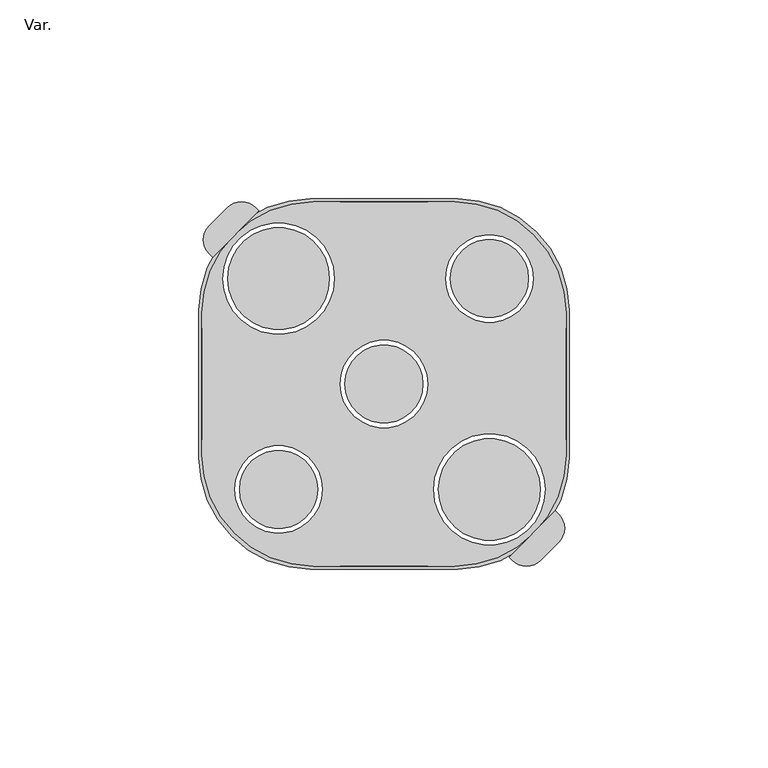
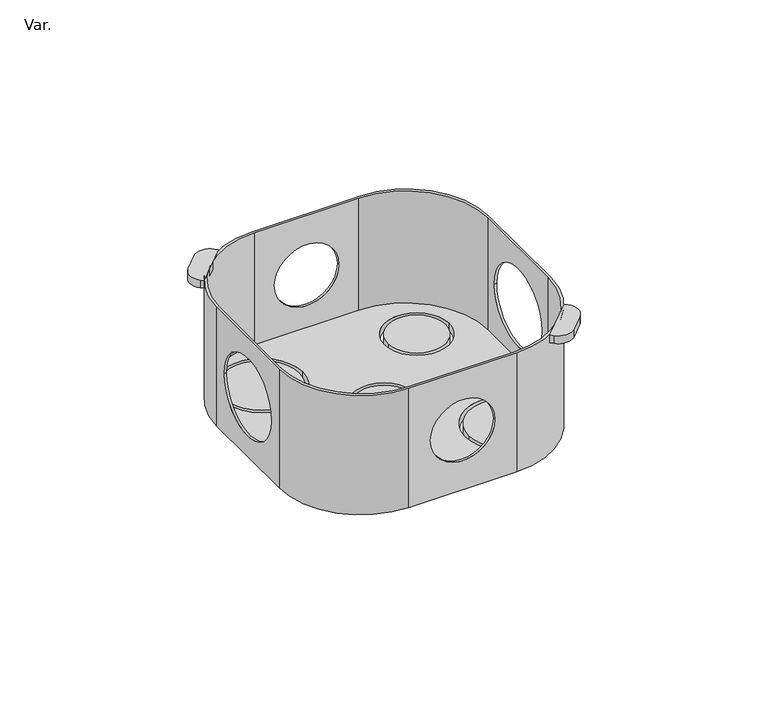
"""IFC4 building model written with IfcOpenShell, lengths in millimetres: cable carrier fitting geometry, PlastigamaWavin_Unionesdetubo_ConduitZNoUsarCajaOctogonal : Var.."""

from ifc_helpers import new_model, si_unit, point, frame, frame_2d, origin, place, context, project, spatial, polyline, circle_curve, trimmed, segment, composite_curve, outline, extrude, source, transform, mapped, element, save
from ifc_brep_helpers import plane_surface, cylinder_surface, revolved_surface, advanced_brep


def var_25dc7d8c(model_context):
    return source(origin(), model_context, "Body", "SolidModel", [
        extrude(outline(composite_curve([segment(trimmed(circle_curve(frame_2d((35.806231, -40.7917488)), 5.0), [point((39.3417649, -44.3272827))], [point((32.2706971, -44.3272827))], False, "CARTESIAN"), True, "CONTINUOUS"), segment(polyline([(32.2706971, -44.3272827), (31.4609084, -43.517494), (43.0936848, -31.8847176), (43.9034735, -32.6945063)]), True, "CONTINUOUS"), segment(trimmed(circle_curve(frame_2d((40.3679396, -36.2300402)), 5.0), [point((43.9034735, -32.6945063))], [point((43.9034735, -39.7655741))], False, "CARTESIAN"), True, "CONTINUOUS"), segment(polyline([(43.9034735, -39.7655741), (39.3417649, -44.3272827)]), True, "CONTINUOUS")], self_intersect=False)), frame((0.0, 0.0, 18.6577793), z_axis=(0.0, 0.0, 1.0), x_axis=(1.0, 0.0, 0.0)), (0.0, 0.0, 1.0), 2.8422207),
        extrude(outline(composite_curve([segment(trimmed(circle_curve(frame_2d((-35.806231, 40.7917488)), 5.0), [point((-39.3417649, 44.3272827))], [point((-32.2706971, 44.3272827))], False, "CARTESIAN"), True, "CONTINUOUS"), segment(polyline([(-32.2706971, 44.3272827), (-31.4609084, 43.517494), (-43.0936848, 31.8847176), (-43.9034735, 32.6945063)]), True, "CONTINUOUS"), segment(trimmed(circle_curve(frame_2d((-40.3679396, 36.2300402)), 5.0), [point((-43.9034735, 32.6945063))], [point((-43.9034735, 39.7655741))], False, "CARTESIAN"), True, "CONTINUOUS"), segment(polyline([(-43.9034735, 39.7655741), (-39.3417649, 44.3272827)]), True, "CONTINUOUS")], self_intersect=False)), frame((0.0, 0.0, 18.6577793), z_axis=(0.0, 0.0, 1.0), x_axis=(1.0, 0.0, 0.0)), (0.0, 0.0, 1.0), 2.8422207),
        advanced_brep(
        [(18.5, 46.5, 21.5), (-18.5, 46.5, 21.5), (-46.5, 18.5, 21.5), (-46.5, -18.5, 21.5), (-18.5, -46.5, 21.5), (18.5, -46.5, 21.5), (46.5, -18.5, 21.5), (46.5, 18.5, 21.5), (-17.75, -45.75, 21.5), (-45.75, -17.75, 21.5), (-45.75, 17.75, 21.5), (-17.75, 45.75, 21.5), (17.75, 45.75, 21.5), (45.75, 17.75, 21.5), (45.75, -17.75, 21.5), (17.75, -45.75, 21.5), (18.5, 46.5, -21.5), (46.5, 18.5, -21.5), (46.5, -18.5, -21.5), (18.5, -46.5, -21.5), (-18.5, -46.5, -21.5), (-46.5, -18.5, -21.5), (-46.5, 18.5, -21.5), (-18.5, 46.5, -21.5), (-40.5, 26.5, -21.5), (-12.5, 26.5, -21.5), (15.5, 26.5, -21.5), (37.5, 26.5, -21.5), (-11.0, 0.0, -21.5), (11.0, 0.0, -21.5), (12.5, -26.5, -21.5), (40.5, -26.5, -21.5), (-37.5, -26.5, -21.5), (-15.5, -26.5, -21.5), (-11.0, 46.5, 0.0), (11.0, 46.5, 0.0), (-46.5, -14.0, 0.0), (-46.5, 14.0, 0.0), (11.0, -46.5, 0.0), (-11.0, -46.5, 0.0), (46.5, 14.0, 0.0), (46.5, -14.0, 0.0), (-45.75, -17.75, -18.9014725), (-17.75, -45.75, -18.9014725), (17.75, -45.75, -18.9014725), (45.75, -17.75, -18.9014725), (45.75, 17.75, -18.9014725), (17.75, 45.75, -18.9014725), (-17.75, 45.75, -18.9014725), (-45.75, 17.75, -18.9014725), (-12.5, 26.5, -18.9014725), (-40.5, 26.5, -18.9014725), (37.5, 26.5, -18.9014725), (15.5, 26.5, -18.9014725), (11.0, 0.0, -18.9014725), (-11.0, 0.0, -18.9014725), (40.5, -26.5, -18.9014725), (12.5, -26.5, -18.9014725), (-15.5, -26.5, -18.9014725), (-37.5, -26.5, -18.9014725), (-11.0, -45.75, 0.0), (11.0, -45.75, 0.0), (45.75, -14.0, 0.0), (45.75, 14.0, 0.0), (11.0, 45.75, 0.0), (-11.0, 45.75, 0.0), (-45.75, 14.0, 0.0), (-45.75, -14.0, 0.0)],
        [
            (0, 1),
            (1, 2, circle_curve(frame((-18.5, 18.5, 21.5), z_axis=(0.0, 0.0, 1.0), x_axis=(1.0, 0.0, 0.0)), 28.0)),
            (2, 3),
            (3, 4, circle_curve(frame((-18.5, -18.5, 21.5), z_axis=(0.0, 0.0, 1.0), x_axis=(1.0, 0.0, 0.0)), 28.0)),
            (4, 5),
            (5, 6, circle_curve(frame((18.5, -18.5, 21.5), z_axis=(0.0, 0.0, 1.0), x_axis=(1.0, 0.0, 0.0)), 28.0)),
            (6, 7),
            (7, 0, circle_curve(frame((18.5, 18.5, 21.5), z_axis=(0.0, 0.0, 1.0), x_axis=(1.0, 0.0, 0.0)), 28.0)),
            (8, 9, circle_curve(frame((-17.75, -17.75, 21.5), z_axis=(0.0, 0.0, -1.0), x_axis=(1.0, 0.0, 0.0)), 28.0)),
            (9, 10),
            (10, 11, circle_curve(frame((-17.75, 17.75, 21.5), z_axis=(0.0, 0.0, -1.0), x_axis=(1.0, 0.0, 0.0)), 28.0)),
            (11, 12),
            (12, 13, circle_curve(frame((17.75, 17.75, 21.5), z_axis=(0.0, 0.0, -1.0), x_axis=(1.0, 0.0, 0.0)), 28.0)),
            (13, 14),
            (14, 15, circle_curve(frame((17.75, -17.75, 21.5), z_axis=(0.0, 0.0, -1.0), x_axis=(1.0, 0.0, 0.0)), 28.0)),
            (15, 8),
            (16, 17, circle_curve(frame((18.5, 18.5, -21.5), z_axis=(0.0, 0.0, -1.0), x_axis=(1.0, 0.0, 0.0)), 28.0)),
            (17, 18),
            (18, 19, circle_curve(frame((18.5, -18.5, -21.5), z_axis=(0.0, 0.0, -1.0), x_axis=(1.0, 0.0, 0.0)), 28.0)),
            (19, 20),
            (20, 21, circle_curve(frame((-18.5, -18.5, -21.5), z_axis=(0.0, 0.0, -1.0), x_axis=(1.0, 0.0, 0.0)), 28.0)),
            (21, 22),
            (22, 23, circle_curve(frame((-18.5, 18.5, -21.5), z_axis=(0.0, 0.0, -1.0), x_axis=(1.0, 0.0, 0.0)), 28.0)),
            (23, 16),
            (24, 25, circle_curve(frame((-26.5, 26.5, -21.5), z_axis=(0.0, 0.0, 1.0), x_axis=(1.0, 0.0, 0.0)), 14.0)),
            (25, 24, circle_curve(frame((-26.5, 26.5, -21.5), z_axis=(0.0, 0.0, 1.0), x_axis=(1.0, 0.0, 0.0)), 14.0)),
            (26, 27, circle_curve(frame((26.5, 26.5, -21.5), z_axis=(0.0, 0.0, 1.0), x_axis=(1.0, 0.0, 0.0)), 11.0)),
            (27, 26, circle_curve(frame((26.5, 26.5, -21.5), z_axis=(0.0, 0.0, 1.0), x_axis=(1.0, 0.0, 0.0)), 11.0)),
            (28, 29, circle_curve(frame((0.0, 0.0, -21.5), z_axis=(0.0, 0.0, 1.0), x_axis=(1.0, 0.0, 0.0)), 11.0)),
            (29, 28, circle_curve(frame((0.0, 0.0, -21.5), z_axis=(0.0, 0.0, 1.0), x_axis=(1.0, 0.0, 0.0)), 11.0)),
            (30, 31, circle_curve(frame((26.5, -26.5, -21.5), z_axis=(0.0, 0.0, 1.0), x_axis=(1.0, 0.0, 0.0)), 14.0)),
            (31, 30, circle_curve(frame((26.5, -26.5, -21.5), z_axis=(0.0, 0.0, 1.0), x_axis=(1.0, 0.0, 0.0)), 14.0)),
            (32, 33, circle_curve(frame((-26.5, -26.5, -21.5), z_axis=(0.0, 0.0, 1.0), x_axis=(1.0, 0.0, 0.0)), 11.0)),
            (33, 32, circle_curve(frame((-26.5, -26.5, -21.5), z_axis=(0.0, 0.0, 1.0), x_axis=(1.0, 0.0, 0.0)), 11.0)),
            (0, 16),
            (23, 1),
            (34, 35, circle_curve(frame((0.0, 46.5, 0.0), z_axis=(0.0, -1.0, 0.0), x_axis=(1.0, 0.0, 0.0)), 11.0)),
            (35, 34, circle_curve(frame((0.0, 46.5, 0.0), z_axis=(0.0, -1.0, 0.0), x_axis=(1.0, 0.0, 0.0)), 11.0)),
            (22, 2),
            (21, 3),
            (36, 37, circle_curve(frame((-46.5, 0.0, 0.0), z_axis=(1.0, 0.0, 0.0), x_axis=(0.0, 1.0, 0.0)), 14.0)),
            (37, 36, circle_curve(frame((-46.5, 0.0, 0.0), z_axis=(1.0, 0.0, 0.0), x_axis=(0.0, 1.0, 0.0)), 14.0)),
            (20, 4),
            (19, 5),
            (38, 39, circle_curve(frame((0.0, -46.5, 0.0), z_axis=(0.0, 1.0, 0.0), x_axis=(1.0, 0.0, 0.0)), 11.0)),
            (39, 38, circle_curve(frame((0.0, -46.5, 0.0), z_axis=(0.0, 1.0, 0.0), x_axis=(1.0, 0.0, 0.0)), 11.0)),
            (18, 6),
            (17, 7),
            (40, 41, circle_curve(frame((46.5, 0.0, 0.0), z_axis=(-1.0, 0.0, 0.0), x_axis=(0.0, 1.0, 0.0)), 14.0)),
            (41, 40, circle_curve(frame((46.5, 0.0, 0.0), z_axis=(-1.0, 0.0, 0.0), x_axis=(0.0, 1.0, 0.0)), 14.0)),
            (42, 43, circle_curve(frame((-17.75, -17.75, -18.9014725), z_axis=(0.0, 0.0, 1.0), x_axis=(1.0, 0.0, 0.0)), 28.0)),
            (43, 44),
            (44, 45, circle_curve(frame((17.75, -17.75, -18.9014725), z_axis=(0.0, 0.0, 1.0), x_axis=(1.0, 0.0, 0.0)), 28.0)),
            (45, 46),
            (46, 47, circle_curve(frame((17.75, 17.75, -18.9014725), z_axis=(0.0, 0.0, 1.0), x_axis=(1.0, 0.0, 0.0)), 28.0)),
            (47, 48),
            (48, 49, circle_curve(frame((-17.75, 17.75, -18.9014725), z_axis=(0.0, 0.0, 1.0), x_axis=(1.0, 0.0, 0.0)), 28.0)),
            (49, 42),
            (50, 51, circle_curve(frame((-26.5, 26.5, -18.9014725), z_axis=(0.0, 0.0, -1.0), x_axis=(1.0, 0.0, 0.0)), 14.0)),
            (51, 50, circle_curve(frame((-26.5, 26.5, -18.9014725), z_axis=(0.0, 0.0, -1.0), x_axis=(1.0, 0.0, 0.0)), 14.0)),
            (52, 53, circle_curve(frame((26.5, 26.5, -18.9014725), z_axis=(0.0, 0.0, -1.0), x_axis=(1.0, 0.0, 0.0)), 11.0)),
            (53, 52, circle_curve(frame((26.5, 26.5, -18.9014725), z_axis=(0.0, 0.0, -1.0), x_axis=(1.0, 0.0, 0.0)), 11.0)),
            (54, 55, circle_curve(frame((0.0, 0.0, -18.9014725), z_axis=(0.0, 0.0, -1.0), x_axis=(1.0, 0.0, 0.0)), 11.0)),
            (55, 54, circle_curve(frame((0.0, 0.0, -18.9014725), z_axis=(0.0, 0.0, -1.0), x_axis=(1.0, 0.0, 0.0)), 11.0)),
            (56, 57, circle_curve(frame((26.5, -26.5, -18.9014725), z_axis=(0.0, 0.0, -1.0), x_axis=(1.0, 0.0, 0.0)), 14.0)),
            (57, 56, circle_curve(frame((26.5, -26.5, -18.9014725), z_axis=(0.0, 0.0, -1.0), x_axis=(1.0, 0.0, 0.0)), 14.0)),
            (58, 59, circle_curve(frame((-26.5, -26.5, -18.9014725), z_axis=(0.0, 0.0, -1.0), x_axis=(1.0, 0.0, 0.0)), 11.0)),
            (59, 58, circle_curve(frame((-26.5, -26.5, -18.9014725), z_axis=(0.0, 0.0, -1.0), x_axis=(1.0, 0.0, 0.0)), 11.0)),
            (42, 9),
            (8, 43),
            (15, 44),
            (60, 61, circle_curve(frame((0.0, -45.75, 0.0), z_axis=(0.0, -1.0, 0.0), x_axis=(1.0, 0.0, 0.0)), 11.0)),
            (61, 60, circle_curve(frame((0.0, -45.75, 0.0), z_axis=(0.0, -1.0, 0.0), x_axis=(1.0, 0.0, 0.0)), 11.0)),
            (14, 45),
            (13, 46),
            (62, 63, circle_curve(frame((45.75, 0.0, 0.0), z_axis=(1.0, 0.0, 0.0), x_axis=(0.0, 1.0, 0.0)), 14.0)),
            (63, 62, circle_curve(frame((45.75, 0.0, 0.0), z_axis=(1.0, 0.0, 0.0), x_axis=(0.0, 1.0, 0.0)), 14.0)),
            (12, 47),
            (11, 48),
            (64, 65, circle_curve(frame((0.0, 45.75, 0.0), z_axis=(0.0, 1.0, 0.0), x_axis=(1.0, 0.0, 0.0)), 11.0)),
            (65, 64, circle_curve(frame((0.0, 45.75, 0.0), z_axis=(0.0, 1.0, 0.0), x_axis=(1.0, 0.0, 0.0)), 11.0)),
            (10, 49),
            (66, 67, circle_curve(frame((-45.75, 0.0, 0.0), z_axis=(-1.0, 0.0, 0.0), x_axis=(0.0, 1.0, 0.0)), 14.0)),
            (67, 66, circle_curve(frame((-45.75, 0.0, 0.0), z_axis=(-1.0, 0.0, 0.0), x_axis=(0.0, 1.0, 0.0)), 14.0)),
            (24, 51),
            (50, 25),
            (26, 53),
            (52, 27),
            (28, 55),
            (54, 29),
            (30, 57),
            (56, 31),
            (32, 59),
            (58, 33),
            (60, 39),
            (38, 61),
            (34, 65),
            (64, 35),
            (62, 41),
            (40, 63),
            (36, 67),
            (66, 37),
        ],
        [
            plane_surface(frame((-18.5, 46.5, 21.5), z_axis=(0.0, 0.0, 1.0), x_axis=(-1.0, 0.0, 0.0))),
            plane_surface(frame((-18.5, 46.5, -21.5), z_axis=(0.0, 0.0, -1.0), x_axis=(1.0, 0.0, 0.0))),
            plane_surface(frame((18.5, 46.5, 21.5), z_axis=(0.0, 1.0, 0.0), x_axis=(0.0, 0.0, -1.0))),
            cylinder_surface(frame((-18.5, 18.5, -21.5), z_axis=(0.0, 0.0, 1.0), x_axis=(1.0, 0.0, 0.0)), 28.0),
            plane_surface(frame((-46.5, 18.5, 21.5), z_axis=(-1.0, 0.0, 0.0), x_axis=(0.0, 0.0, -1.0))),
            cylinder_surface(frame((-18.5, -18.5, -21.5), z_axis=(0.0, 0.0, 1.0), x_axis=(1.0, 0.0, 0.0)), 28.0),
            plane_surface(frame((-18.5, -46.5, 21.5), z_axis=(0.0, -1.0, 0.0), x_axis=(0.0, 0.0, -1.0))),
            cylinder_surface(frame((18.5, -18.5, -21.5), z_axis=(0.0, 0.0, 1.0), x_axis=(1.0, 0.0, 0.0)), 28.0),
            plane_surface(frame((46.5, -18.5, 21.5), z_axis=(1.0, 0.0, 0.0), x_axis=(0.0, 0.0, -1.0))),
            cylinder_surface(frame((18.5, 18.5, -21.5), z_axis=(0.0, 0.0, 1.0), x_axis=(1.0, 0.0, 0.0)), 28.0),
            plane_surface(frame((10.25, -17.75, -18.9014725), z_axis=(0.0, 0.0, 1.0), x_axis=(0.0, -1.0, 0.0))),
            revolved_surface(polyline([(10.25, -17.75, 21.499999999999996), (10.25, -17.75, -18.9014725)]), (-17.75, -17.75, -18.9014725), (0.0, 0.0, 1.0)),
            plane_surface(frame((-17.75, -45.75, 21.5), z_axis=(0.0, 1.0, 0.0), x_axis=(0.0, 0.0, -1.0))),
            revolved_surface(polyline([(45.75, -17.75, 21.499999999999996), (45.75, -17.75, -18.9014725)]), (17.75, -17.75, -18.9014725), (0.0, 0.0, 1.0)),
            plane_surface(frame((45.75, -17.75, 21.5), z_axis=(-1.0, 0.0, 0.0), x_axis=(0.0, 0.0, -1.0))),
            revolved_surface(polyline([(45.75, 17.75, 21.499999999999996), (45.75, 17.75, -18.9014725)]), (17.75, 17.75, -18.9014725), (0.0, 0.0, 1.0)),
            plane_surface(frame((17.75, 45.75, 21.5), z_axis=(0.0, -1.0, 0.0), x_axis=(0.0, 0.0, -1.0))),
            revolved_surface(polyline([(10.25, 17.75, 21.499999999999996), (10.25, 17.75, -18.9014725)]), (-17.75, 17.75, -18.9014725), (0.0, 0.0, 1.0)),
            plane_surface(frame((-45.75, 17.75, 21.5), z_axis=(1.0, 0.0, 0.0), x_axis=(0.0, 0.0, -1.0))),
            revolved_surface(polyline([(-12.5, 26.5, -18.9014725), (-12.5, 26.5, -21.5)]), (-26.5, 26.5, 0.0), (0.0, 0.0, 1.0)),
            revolved_surface(polyline([(37.5, 26.5, -18.9014725), (37.5, 26.5, -21.5)]), (26.5, 26.5, 0.0), (0.0, 0.0, 1.0)),
            revolved_surface(polyline([(11.0, 0.0, -18.9014725), (11.0, 0.0, -21.5)]), (0.0, 0.0, 0.0), (0.0, 0.0, 1.0)),
            revolved_surface(polyline([(40.5, -26.5, -18.9014725), (40.5, -26.5, -21.5)]), (26.5, -26.5, 0.0), (0.0, 0.0, 1.0)),
            revolved_surface(polyline([(-15.5, -26.5, -18.9014725), (-15.5, -26.5, -21.5)]), (-26.5, -26.5, 0.0), (0.0, 0.0, 1.0)),
            revolved_surface(polyline([(11.0, -46.5, 0.0), (11.0, -45.75, 0.0)]), (0.0, 46.5, 0.0), (0.0, -1.0, 0.0)),
            revolved_surface(polyline([(11.0, 45.75, 0.0), (11.0, 46.5, 0.0)]), (0.0, 46.5, 0.0), (0.0, -1.0, 0.0)),
            revolved_surface(polyline([(46.5, 14.0, 0.0), (45.75, 14.0, 0.0)]), (-46.5, 0.0, 0.0), (1.0, 0.0, 0.0)),
            revolved_surface(polyline([(-45.75, 14.0, 0.0), (-46.5, 14.0, 0.0)]), (-46.5, 0.0, 0.0), (1.0, 0.0, 0.0)),
        ],
        [
            (0, [[1, 2, 3, 4, 5, 6, 7, 8], [9, 10, 11, 12, 13, 14, 15, 16]]),
            (1, [[17, 18, 19, 20, 21, 22, 23, 24], [25, 26], [27, 28], [29, 30], [31, 32], [33, 34]]),
            (2, [[-1, 35, -24, 36], [37, 38]]),
            (3, [[-2, -36, -23, 39]]),
            (4, [[-3, -39, -22, 40], [41, 42]]),
            (5, [[-4, -40, -21, 43]]),
            (6, [[-5, -43, -20, 44], [45, 46]]),
            (7, [[-6, -44, -19, 47]]),
            (8, [[-7, -47, -18, 48], [49, 50]]),
            (9, [[-8, -48, -17, -35]]),
            (10, [[51, 52, 53, 54, 55, 56, 57, 58], [59, 60], [61, 62], [63, 64], [65, 66], [67, 68]]),
            (11, [[-51, 69, -9, 70]]),
            (12, [[-52, -70, -16, 71], [72, 73]]),
            (13, [[-53, -71, -15, 74]]),
            (14, [[-54, -74, -14, 75], [76, 77]]),
            (15, [[-55, -75, -13, 78]]),
            (16, [[-56, -78, -12, 79], [80, 81]]),
            (17, [[-57, -79, -11, 82]]),
            (18, [[-58, -82, -10, -69], [83, 84]]),
            (19, [[85, -59, 86, -25]]),
            (19, [[-85, -26, -86, -60]]),
            (20, [[87, -61, 88, -27]]),
            (20, [[-87, -28, -88, -62]]),
            (21, [[89, -63, 90, -29]]),
            (21, [[-89, -30, -90, -64]]),
            (22, [[91, -65, 92, -31]]),
            (22, [[-91, -32, -92, -66]]),
            (23, [[93, -67, 94, -33]]),
            (23, [[-93, -34, -94, -68]]),
            (24, [[95, -45, 96, -72]]),
            (25, [[97, -80, 98, -37]]),
            (24, [[-95, -73, -96, -46]]),
            (25, [[-97, -38, -98, -81]]),
            (26, [[99, -49, 100, -76]]),
            (27, [[101, -83, 102, -41]]),
            (26, [[-99, -77, -100, -50]]),
            (27, [[-101, -42, -102, -84]]),
        ],
    ),
        advanced_brep(
        [(-39.3, 26.5, -21.5), (-13.7, 26.5, -21.5), (-13.7, 26.5, -18.9014725), (-39.3, 26.5, -18.9014725)],
        [
            (0, 1, circle_curve(frame((-26.5, 26.5, -21.5), z_axis=(0.0, 0.0, -1.0), x_axis=(1.0, 0.0, 0.0)), 12.8)),
            (1, 0, circle_curve(frame((-26.5, 26.5, -21.5), z_axis=(0.0, 0.0, -1.0), x_axis=(1.0, 0.0, 0.0)), 12.8)),
            (2, 3, circle_curve(frame((-26.5, 26.5, -18.9014725), z_axis=(0.0, 0.0, 1.0), x_axis=(1.0, 0.0, 0.0)), 12.8)),
            (3, 2, circle_curve(frame((-26.5, 26.5, -18.9014725), z_axis=(0.0, 0.0, 1.0), x_axis=(1.0, 0.0, 0.0)), 12.8)),
            (0, 3),
            (2, 1),
        ],
        [
            plane_surface(frame((-18.5, 46.5, -21.5), z_axis=(0.0, 0.0, -1.0), x_axis=(1.0, 0.0, 0.0))),
            plane_surface(frame((10.25, -17.75, -18.9014725), z_axis=(0.0, 0.0, 1.0), x_axis=(0.0, -1.0, 0.0))),
            cylinder_surface(frame((-26.5, 26.5, -82.1571203), z_axis=(0.0, 0.0, -1.0), x_axis=(1.0, 0.0, 0.0)), 12.8),
        ],
        [
            (0, [[1, 2]]),
            (1, [[3, 4]]),
            (2, [[5, -3, 6, -1]]),
            (2, [[-5, -2, -6, -4]]),
        ],
    ),
        advanced_brep(
        [(16.7, 26.5, -21.5), (36.3, 26.5, -21.5), (36.3, 26.5, -18.9014725), (16.7, 26.5, -18.9014725)],
        [
            (0, 1, circle_curve(frame((26.5, 26.5, -21.5), z_axis=(0.0, 0.0, -1.0), x_axis=(1.0, 0.0, 0.0)), 9.8)),
            (1, 0, circle_curve(frame((26.5, 26.5, -21.5), z_axis=(0.0, 0.0, -1.0), x_axis=(1.0, 0.0, 0.0)), 9.8)),
            (2, 3, circle_curve(frame((26.5, 26.5, -18.9014725), z_axis=(0.0, 0.0, 1.0), x_axis=(1.0, 0.0, 0.0)), 9.8)),
            (3, 2, circle_curve(frame((26.5, 26.5, -18.9014725), z_axis=(0.0, 0.0, 1.0), x_axis=(1.0, 0.0, 0.0)), 9.8)),
            (0, 3),
            (2, 1),
        ],
        [
            plane_surface(frame((-18.5, 46.5, -21.5), z_axis=(0.0, 0.0, -1.0), x_axis=(1.0, 0.0, 0.0))),
            plane_surface(frame((10.25, -17.75, -18.9014725), z_axis=(0.0, 0.0, 1.0), x_axis=(0.0, -1.0, 0.0))),
            cylinder_surface(frame((26.5, 26.5, 0.0), z_axis=(0.0, 0.0, -1.0), x_axis=(1.0, 0.0, 0.0)), 9.8),
        ],
        [
            (0, [[1, 2]]),
            (1, [[3, 4]]),
            (2, [[5, -3, 6, -1]]),
            (2, [[-5, -2, -6, -4]]),
        ],
    ),
        advanced_brep(
        [(-9.8, 0.0, -21.5), (9.8, 0.0, -21.5), (9.8, 0.0, -18.9014725), (-9.8, 0.0, -18.9014725)],
        [
            (0, 1, circle_curve(frame((0.0, 0.0, -21.5), z_axis=(0.0, 0.0, -1.0), x_axis=(1.0, 0.0, 0.0)), 9.8)),
            (1, 0, circle_curve(frame((0.0, 0.0, -21.5), z_axis=(0.0, 0.0, -1.0), x_axis=(1.0, 0.0, 0.0)), 9.8)),
            (2, 3, circle_curve(frame((0.0, 0.0, -18.9014725), z_axis=(0.0, 0.0, 1.0), x_axis=(1.0, 0.0, 0.0)), 9.8)),
            (3, 2, circle_curve(frame((0.0, 0.0, -18.9014725), z_axis=(0.0, 0.0, 1.0), x_axis=(1.0, 0.0, 0.0)), 9.8)),
            (0, 3),
            (2, 1),
        ],
        [
            plane_surface(frame((-18.5, 46.5, -21.5), z_axis=(0.0, 0.0, -1.0), x_axis=(1.0, 0.0, 0.0))),
            plane_surface(frame((10.25, -17.75, -18.9014725), z_axis=(0.0, 0.0, 1.0), x_axis=(0.0, -1.0, 0.0))),
            cylinder_surface(frame((0.0, 0.0, 0.0), z_axis=(0.0, 0.0, -1.0), x_axis=(1.0, 0.0, 0.0)), 9.8),
        ],
        [
            (0, [[1, 2]]),
            (1, [[3, 4]]),
            (2, [[5, -3, 6, -1]]),
            (2, [[-5, -2, -6, -4]]),
        ],
    ),
        advanced_brep(
        [(13.7, -26.5, -21.5), (39.3, -26.5, -21.5), (39.3, -26.5, -18.9014725), (13.7, -26.5, -18.9014725)],
        [
            (0, 1, circle_curve(frame((26.5, -26.5, -21.5), z_axis=(0.0, 0.0, -1.0), x_axis=(1.0, 0.0, 0.0)), 12.8)),
            (1, 0, circle_curve(frame((26.5, -26.5, -21.5), z_axis=(0.0, 0.0, -1.0), x_axis=(1.0, 0.0, 0.0)), 12.8)),
            (2, 3, circle_curve(frame((26.5, -26.5, -18.9014725), z_axis=(0.0, 0.0, 1.0), x_axis=(1.0, 0.0, 0.0)), 12.8)),
            (3, 2, circle_curve(frame((26.5, -26.5, -18.9014725), z_axis=(0.0, 0.0, 1.0), x_axis=(1.0, 0.0, 0.0)), 12.8)),
            (0, 3),
            (2, 1),
        ],
        [
            plane_surface(frame((-18.5, 46.5, -21.5), z_axis=(0.0, 0.0, -1.0), x_axis=(1.0, 0.0, 0.0))),
            plane_surface(frame((10.25, -17.75, -18.9014725), z_axis=(0.0, 0.0, 1.0), x_axis=(0.0, -1.0, 0.0))),
            cylinder_surface(frame((26.5, -26.5, 0.0), z_axis=(0.0, 0.0, -1.0), x_axis=(1.0, 0.0, 0.0)), 12.8),
        ],
        [
            (0, [[1, 2]]),
            (1, [[3, 4]]),
            (2, [[5, -3, 6, -1]]),
            (2, [[-5, -2, -6, -4]]),
        ],
    ),
        advanced_brep(
        [(-36.3, -26.5, -21.5), (-16.7, -26.5, -21.5), (-16.7, -26.5, -18.9014725), (-36.3, -26.5, -18.9014725)],
        [
            (0, 1, circle_curve(frame((-26.5, -26.5, -21.5), z_axis=(0.0, 0.0, -1.0), x_axis=(1.0, 0.0, 0.0)), 9.8)),
            (1, 0, circle_curve(frame((-26.5, -26.5, -21.5), z_axis=(0.0, 0.0, -1.0), x_axis=(1.0, 0.0, 0.0)), 9.8)),
            (2, 3, circle_curve(frame((-26.5, -26.5, -18.9014725), z_axis=(0.0, 0.0, 1.0), x_axis=(1.0, 0.0, 0.0)), 9.8)),
            (3, 2, circle_curve(frame((-26.5, -26.5, -18.9014725), z_axis=(0.0, 0.0, 1.0), x_axis=(1.0, 0.0, 0.0)), 9.8)),
            (0, 3),
            (2, 1),
        ],
        [
            plane_surface(frame((-18.5, 46.5, -21.5), z_axis=(0.0, 0.0, -1.0), x_axis=(1.0, 0.0, 0.0))),
            plane_surface(frame((10.25, -17.75, -18.9014725), z_axis=(0.0, 0.0, 1.0), x_axis=(0.0, -1.0, 0.0))),
            cylinder_surface(frame((-26.5, -26.5, 0.0), z_axis=(0.0, 0.0, -1.0), x_axis=(1.0, 0.0, 0.0)), 9.8),
        ],
        [
            (0, [[1, 2]]),
            (1, [[3, 4]]),
            (2, [[5, -3, 6, -1]]),
            (2, [[-5, -2, -6, -4]]),
        ],
    ),
    ])


if __name__ == "__main__":
    model = new_model("IFC4")
    model_context = context("Model", 3, world=origin())
    ifc_project = project(units=[si_unit("LENGTHUNIT", "METRE", prefix="MILLI")], contexts=[model_context])
    site = spatial("IfcSite", under=ifc_project)
    building = spatial("IfcBuilding", under=site)
    placement = place(None, origin())
    var_shape = var_25dc7d8c(model_context)
    element("IfcCableCarrierFitting", 1, ObjectType="PlastigamaWavin_Unionesdetubo_ConduitZNoUsarCajaOctogonal : Var.", at=placement, inside=building, context=model_context, shape_type="MappedRepresentation", body=[
        mapped(var_shape, transform((0.0, 0.0, 0.0), x_axis=(1.0, 0.0, 0.0), y_axis=(0.0, 1.0, 0.0), z_axis=(0.0, 0.0, 1.0))),
    ])
    save(model, "model.ifc")
